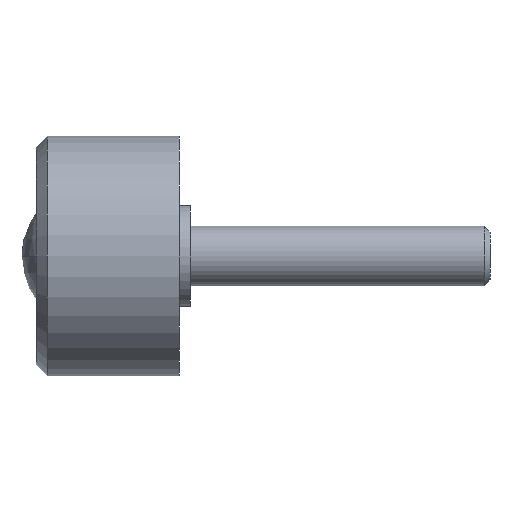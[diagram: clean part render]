
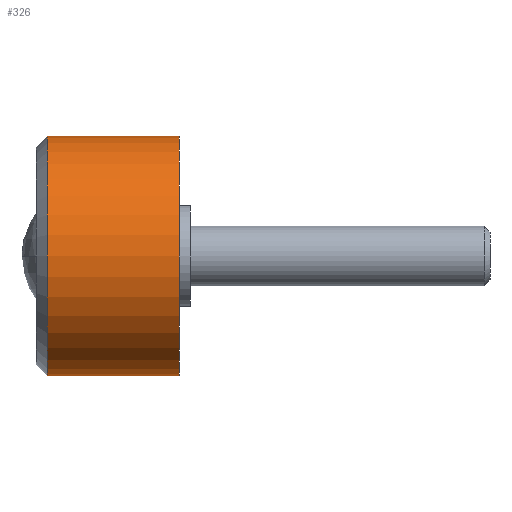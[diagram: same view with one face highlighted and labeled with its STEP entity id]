
A CAD part, left-side view. The second image highlights one B-rep face of the part: STEP entity #326.
In plain terms, the highlighted cylindrical face has radius 16 mm (diameter 32 mm), a partial arc.
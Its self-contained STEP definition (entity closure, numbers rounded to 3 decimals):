
#31 = EDGE_CURVE ( 'NONE', #371, #615, #449, .T. ) ;
#72 = VECTOR ( 'NONE', #467, 1000. ) ;
#90 = AXIS2_PLACEMENT_3D ( 'NONE', #215, #683, #448 ) ;
#93 = VERTEX_POINT ( 'NONE', #507 ) ;
#95 = DIRECTION ( 'NONE',  ( 0., 0., -1. ) ) ;
#96 = LINE ( 'NONE', #698, #352 ) ;
#99 = DIRECTION ( 'NONE',  ( 0., 0., -1. ) ) ;
#107 = CARTESIAN_POINT ( 'NONE',  ( 0., 17.6, 16. ) ) ;
#129 = EDGE_LOOP ( 'NONE', ( #664, #727, #218, #514 ) ) ;
#132 = AXIS2_PLACEMENT_3D ( 'NONE', #619, #665, #95 ) ;
#158 = CARTESIAN_POINT ( 'NONE',  ( 0., 0., -16. ) ) ;
#215 = CARTESIAN_POINT ( 'NONE',  ( 0., 17.6, 0. ) ) ;
#218 = ORIENTED_EDGE ( 'NONE', *, *, #423, .T. ) ;
#277 = AXIS2_PLACEMENT_3D ( 'NONE', #477, #712, #99 ) ;
#326 = ADVANCED_FACE ( 'NONE', ( #672 ), #374, .T. ) ;
#352 = VECTOR ( 'NONE', #441, 1000. ) ;
#371 = VERTEX_POINT ( 'NONE', #404 ) ;
#374 = CYLINDRICAL_SURFACE ( 'NONE', #132, 16. ) ;
#404 = CARTESIAN_POINT ( 'NONE',  ( 0., 0., 16. ) ) ;
#422 = CIRCLE ( 'NONE', #90, 16. ) ;
#423 = EDGE_CURVE ( 'NONE', #93, #615, #695, .T. ) ;
#427 = VERTEX_POINT ( 'NONE', #107 ) ;
#441 = DIRECTION ( 'NONE',  ( 0., -1., 0. ) ) ;
#448 = DIRECTION ( 'NONE',  ( 0., 0., 1. ) ) ;
#449 = CIRCLE ( 'NONE', #277, 16. ) ;
#467 = DIRECTION ( 'NONE',  ( 0., -1., 0. ) ) ;
#477 = CARTESIAN_POINT ( 'NONE',  ( 0., 0., 0. ) ) ;
#507 = CARTESIAN_POINT ( 'NONE',  ( 0., 17.6, -16. ) ) ;
#514 = ORIENTED_EDGE ( 'NONE', *, *, #31, .F. ) ;
#524 = EDGE_CURVE ( 'NONE', #427, #93, #422, .T. ) ;
#545 = EDGE_CURVE ( 'NONE', #427, #371, #96, .T. ) ;
#615 = VERTEX_POINT ( 'NONE', #658 ) ;
#619 = CARTESIAN_POINT ( 'NONE',  ( 0., 0., 0. ) ) ;
#658 = CARTESIAN_POINT ( 'NONE',  ( 0., 0., -16. ) ) ;
#664 = ORIENTED_EDGE ( 'NONE', *, *, #545, .F. ) ;
#665 = DIRECTION ( 'NONE',  ( 0., -1., 0. ) ) ;
#672 = FACE_OUTER_BOUND ( 'NONE', #129, .T. ) ;
#683 = DIRECTION ( 'NONE',  ( 0., -1., 0. ) ) ;
#695 = LINE ( 'NONE', #158, #72 ) ;
#698 = CARTESIAN_POINT ( 'NONE',  ( 0., 0., 16. ) ) ;
#712 = DIRECTION ( 'NONE',  ( 0., -1., 0. ) ) ;
#727 = ORIENTED_EDGE ( 'NONE', *, *, #524, .T. ) ;
